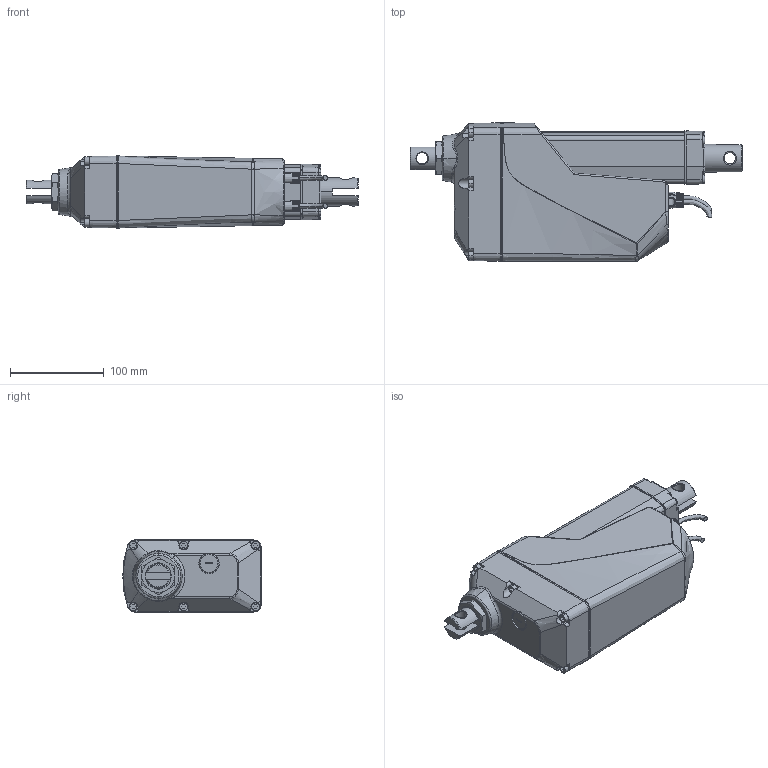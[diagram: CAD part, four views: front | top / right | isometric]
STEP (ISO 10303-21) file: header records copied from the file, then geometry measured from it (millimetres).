
FILE_DESCRIPTION((''),'2;1');
FILE_NAME('MK35_ASM','2021-07-22T',('hank'),(''),'PRO/ENGINEER BY PARAMETRIC TECHNOLOGY CORPORATION, 2016360','PRO/ENGINEER BY PARAMETRIC TECHNOLOGY CORPORATION, 2016360','');
FILE_SCHEMA(('CONFIG_CONTROL_DESIGN'));
Length unit declared in the file: millimetre
Products named in the file (7): GEARBOX; 87-A; 7-D; 7-COVER-TEST; TUBE-A; 91A-25; MK35_ASM
Assembly tree (9 placements, depth 2):
  MK35_ASM
    GEARBOX
    87-A
    7-D
    7-COVER-TEST
    TUBE-A
    91A-25  x4
Bounding box: 355 x 148 x 77 mm (x, y, z)
Volume: 2254143 mm3; surface area: 230801.8 mm2
Topology: 9 solids, 18 shells, 749 faces, 1829 edges, 1171 vertices
Faces by surface type: plane 375, cylinder 183, bspline 105, cone 40, torus 40, extrusion 4, sphere 2
Entity records: 32436 total; most frequent: CARTESIAN_POINT 16281, ORIENTED_EDGE 3490, DIRECTION 3012, EDGE_CURVE 1745, VERTEX_POINT 1117, AXIS2_PLACEMENT_3D 1085, VECTOR 842, LINE 838
